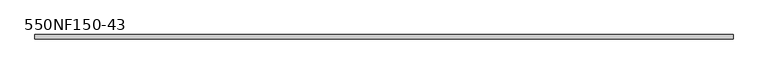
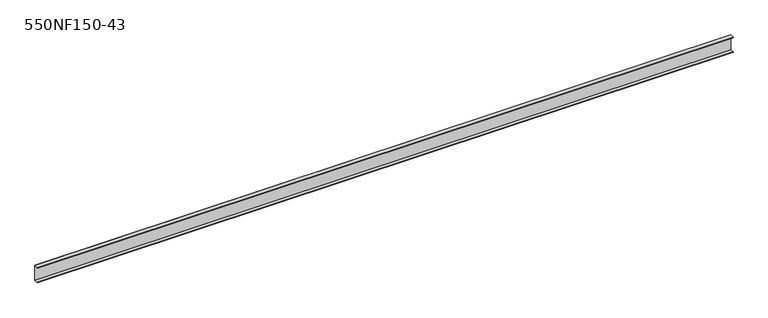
"""IFC4 building model written with IfcOpenShell, lengths in millimetres: beam geometry, BIMSF-SSMA-S : 550NF150-43."""

from ifc_helpers import new_model, si_unit, frame, origin, place, context, project, spatial, polyline, outline, extrude, source, transform, mapped, element, save


def beam_550nf150_43_bc1485c3(model_context):
    return source(origin(), model_context, "Body", "SweptSolid", [
        extrude(outline(polyline([(19.05, 69.85), (19.05, -69.85), (-19.05, -69.85), (-19.05, -65.0748), (-17.9003158, -65.0748), (-17.9003158, -68.7003158), (17.9003158, -68.7003158), (17.9003158, 68.7003158), (-17.9003158, 68.7003158), (-17.9003158, 65.0748), (-19.05, 65.0748), (-19.05, 69.85), (19.05, 69.85)])), frame((-3048.0, 0.0, 0.0), z_axis=(1.0, 0.0, 0.0), x_axis=(0.0, 1.0, 0.0)), (0.0, 0.0, 1.0), 6096.0),
    ])


if __name__ == "__main__":
    model = new_model("IFC4")
    model_context = context("Model", 3, world=origin())
    ifc_project = project(units=[si_unit("LENGTHUNIT", "METRE", prefix="MILLI")], contexts=[model_context])
    site = spatial("IfcSite", under=ifc_project)
    building = spatial("IfcBuilding", under=site)
    placement = place(None, origin())
    beam_550nf150_43_shape = beam_550nf150_43_bc1485c3(model_context)
    element("IfcBeam", 1, ObjectType="BIMSF-SSMA-S : 550NF150-43", at=placement, inside=building, context=model_context, shape_type="MappedRepresentation", body=[
        mapped(beam_550nf150_43_shape, transform((0.0, 0.0, 0.0), x_axis=(1.0, 0.0, 0.0), y_axis=(0.0, 1.0, 0.0), z_axis=(0.0, 0.0, 1.0))),
    ])
    save(model, "model.ifc")
